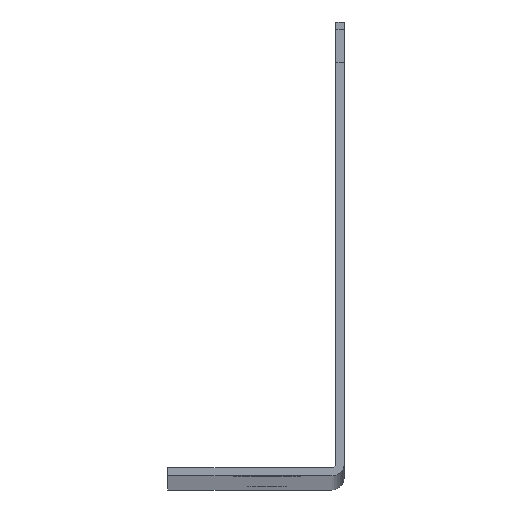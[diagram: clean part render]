
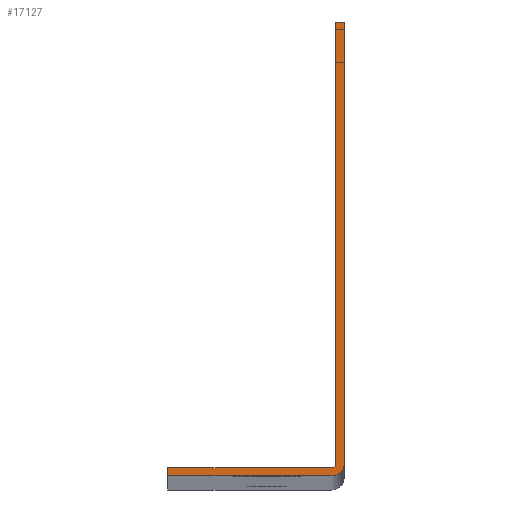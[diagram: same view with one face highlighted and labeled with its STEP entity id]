
A CAD part, top view. The second image highlights one B-rep face of the part: STEP entity #17127.
In plain terms, the highlighted planar face has unit normal (0, 0, 1).
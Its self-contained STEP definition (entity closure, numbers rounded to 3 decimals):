
#203=CIRCLE('',#18020,3.632);
#204=CIRCLE('',#18021,1.219);
#1085=ORIENTED_EDGE('',*,*,#6004,.F.);
#1086=ORIENTED_EDGE('',*,*,#6005,.F.);
#1087=ORIENTED_EDGE('',*,*,#5909,.F.);
#1088=ORIENTED_EDGE('',*,*,#6006,.T.);
#1089=ORIENTED_EDGE('',*,*,#6007,.T.);
#1090=ORIENTED_EDGE('',*,*,#6008,.T.);
#1091=ORIENTED_EDGE('',*,*,#6009,.T.);
#1092=ORIENTED_EDGE('',*,*,#6010,.T.);
#5909=EDGE_CURVE('',#8373,#8374,#9981,.T.);
#6004=EDGE_CURVE('',#8459,#8460,#10030,.T.);
#6005=EDGE_CURVE('',#8374,#8459,#203,.T.);
#6006=EDGE_CURVE('',#8373,#8461,#10031,.T.);
#6007=EDGE_CURVE('',#8461,#8462,#10032,.T.);
#6008=EDGE_CURVE('',#8462,#8463,#204,.F.);
#6009=EDGE_CURVE('',#8463,#8464,#10033,.T.);
#6010=EDGE_CURVE('',#8464,#8460,#10034,.T.);
#8373=VERTEX_POINT('',#24601);
#8374=VERTEX_POINT('',#24602);
#8459=VERTEX_POINT('',#24854);
#8460=VERTEX_POINT('',#24855);
#8461=VERTEX_POINT('',#24858);
#8462=VERTEX_POINT('',#24860);
#8463=VERTEX_POINT('',#24862);
#8464=VERTEX_POINT('',#24864);
#9981=LINE('',#24600,#12273);
#10030=LINE('',#24853,#12322);
#10031=LINE('',#24857,#12323);
#10032=LINE('',#24859,#12324);
#10033=LINE('',#24863,#12325);
#10034=LINE('',#24865,#12326);
#12273=VECTOR('',#19613,1000.);
#12322=VECTOR('',#19726,1000.);
#12323=VECTOR('',#19729,1000.);
#12324=VECTOR('',#19730,1000.);
#12325=VECTOR('',#19733,1000.);
#12326=VECTOR('',#19734,1000.);
#14069=EDGE_LOOP('',(#1085,#1086,#1087,#1088,#1089,#1090,#1091,#1092));
#15299=FACE_BOUND('',#14069,.T.);
#16331=PLANE('',#18019);
#17127=ADVANCED_FACE('',(#15299),#16331,.T.);
#18019=AXIS2_PLACEMENT_3D('',#24852,#19724,#19725);
#18020=AXIS2_PLACEMENT_3D('',#24856,#19727,#19728);
#18021=AXIS2_PLACEMENT_3D('',#24861,#19731,#19732);
#19613=DIRECTION('',(0.,-1.,0.));
#19724=DIRECTION('',(0.,0.,1.));
#19725=DIRECTION('',(1.,0.,0.));
#19726=DIRECTION('',(-1.,0.,0.));
#19727=DIRECTION('',(0.,0.,-1.));
#19728=DIRECTION('',(0.,1.,0.));
#19729=DIRECTION('',(-1.,0.,0.));
#19730=DIRECTION('',(0.,-1.,0.));
#19731=DIRECTION('',(0.,0.,1.));
#19732=DIRECTION('',(1.,0.,0.));
#19733=DIRECTION('',(-1.,0.,0.));
#19734=DIRECTION('',(0.,-1.,0.));
#24600=CARTESIAN_POINT('',(25.4,2.171,1156.081));
#24601=CARTESIAN_POINT('',(25.4,130.658,1156.081));
#24602=CARTESIAN_POINT('',(25.4,3.632,1156.081));
#24852=CARTESIAN_POINT('',(25.4,2.413,1156.081));
#24853=CARTESIAN_POINT('',(25.4,0.,1156.081));
#24854=CARTESIAN_POINT('',(21.768,0.,1156.081));
#24855=CARTESIAN_POINT('',(-25.4,0.,1156.081));
#24856=CARTESIAN_POINT('',(21.768,3.632,1156.081));
#24857=CARTESIAN_POINT('',(25.4,130.658,1156.081));
#24858=CARTESIAN_POINT('',(22.987,130.658,1156.081));
#24859=CARTESIAN_POINT('',(22.987,2.171,1156.081));
#24860=CARTESIAN_POINT('',(22.987,3.632,1156.081));
#24861=CARTESIAN_POINT('',(21.768,3.632,1156.081));
#24862=CARTESIAN_POINT('',(21.768,2.413,1156.081));
#24863=CARTESIAN_POINT('',(25.4,2.413,1156.081));
#24864=CARTESIAN_POINT('',(-25.4,2.413,1156.081));
#24865=CARTESIAN_POINT('',(-25.4,2.413,1156.081));
